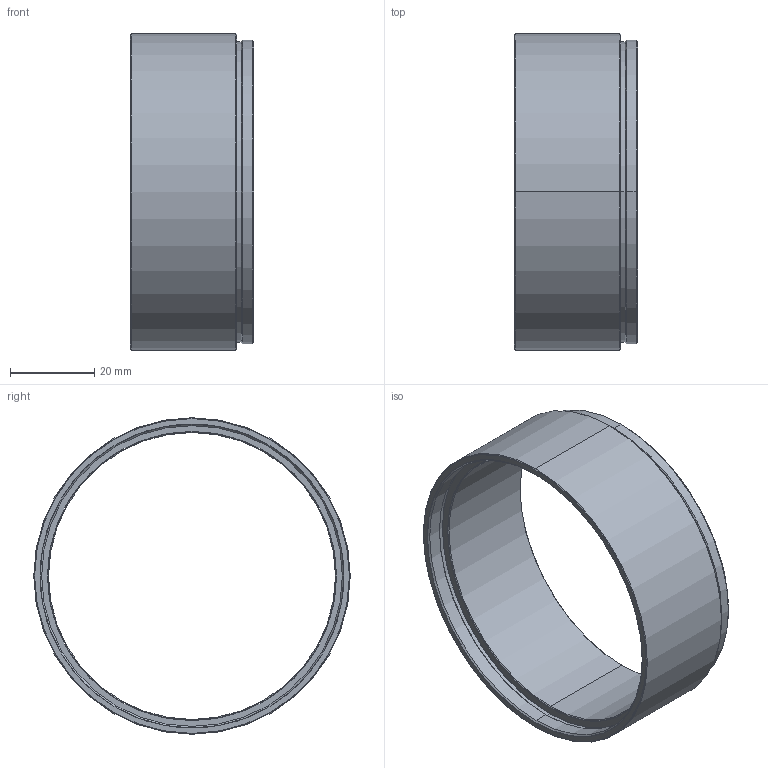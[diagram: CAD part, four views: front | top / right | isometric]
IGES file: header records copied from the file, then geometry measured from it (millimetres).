
Start section: SolidWorks IGES file using analytic representation for surfaces
Bounding box: 29.24 x 75 x 75 mm (x, y, z)
Surface area: 14756.3 mm2 (no closed solid volume)
Topology: 0 solids, 0 shells, 32 faces, 624 edges, 624 vertices
Faces by surface type: revolution 28, bspline 4
